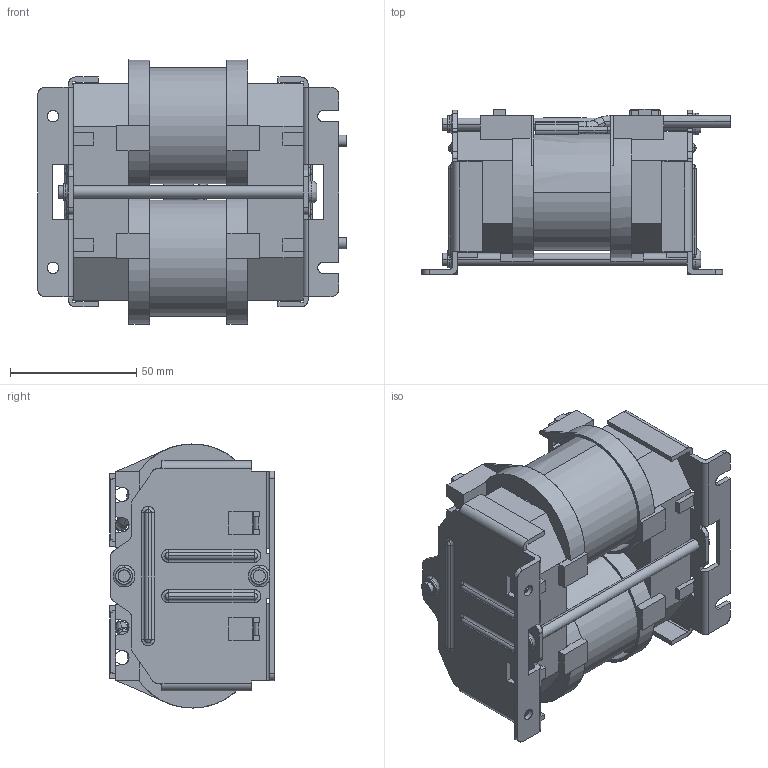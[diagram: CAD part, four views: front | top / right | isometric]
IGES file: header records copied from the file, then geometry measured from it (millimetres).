
Start section: SolidWorks IGES file using analytic representation for surfaces
Global section: file name: \\10.106.230.1\r&d file\05_COMP\02_Mechanical\10_Others\PV_RT 81\网络用3D模型\卧式模型\网络用模型\SP10225B-SH00SS20R(H-5KW_DCL-S).IGS,15HSolidWorks; native system: 2009; preprocessor: SolidWorks 2009; author: test; date: 120508.155334; units: millimetre
Bounding box: 122 x 65.25 x 104.5 mm (x, y, z)
Surface area: 107102.7 mm2 (no closed solid volume)
Topology: 0 solids, 0 shells, 801 faces, 9483 edges, 9460 vertices
Faces by surface type: bspline 513, revolution 288
